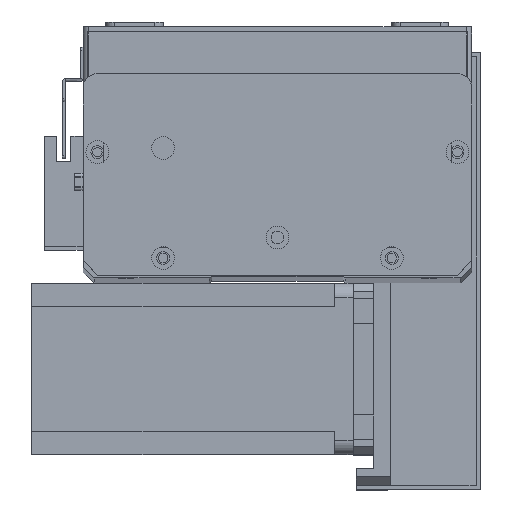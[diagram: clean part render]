
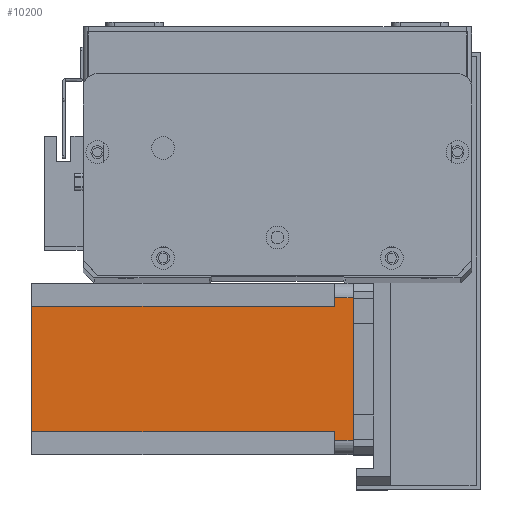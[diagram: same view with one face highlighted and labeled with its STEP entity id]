
A CAD part, top view. The second image highlights one B-rep face of the part: STEP entity #10200.
In plain terms, the highlighted planar face has unit normal (0, 0, 1) as drawn and (0, -1, 0) by its records, which use the part's own axes.
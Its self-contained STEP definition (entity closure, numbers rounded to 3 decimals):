
#743 = VECTOR ( 'NONE', #19287, 1000. ) ;
#881 = DIRECTION ( 'NONE',  ( 1., 0., 0. ) ) ;
#1166 = CARTESIAN_POINT ( 'NONE',  ( 52., 0., -112.5 ) ) ;
#2771 = CARTESIAN_POINT ( 'NONE',  ( 55., 0., -112.5 ) ) ;
#2995 = LINE ( 'NONE', #18598, #8329 ) ;
#3150 = VECTOR ( 'NONE', #25410, 1000. ) ;
#4095 = VERTEX_POINT ( 'NONE', #10536 ) ;
#4291 = CARTESIAN_POINT ( 'NONE',  ( 5., 0., -112.5 ) ) ;
#4476 = VERTEX_POINT ( 'NONE', #12394 ) ;
#4804 = CARTESIAN_POINT ( 'NONE',  ( 52., 0., -112.5 ) ) ;
#4951 = CARTESIAN_POINT ( 'NONE',  ( 0., 0., -112.5 ) ) ;
#5153 = ORIENTED_EDGE ( 'NONE', *, *, #24246, .F. ) ;
#5702 = VERTEX_POINT ( 'NONE', #28432 ) ;
#6292 = VECTOR ( 'NONE', #23249, 1000. ) ;
#6679 = ORIENTED_EDGE ( 'NONE', *, *, #21431, .T. ) ;
#7613 = CARTESIAN_POINT ( 'NONE',  ( 0., 0., 0. ) ) ;
#7715 = VECTOR ( 'NONE', #17931, 1000. ) ;
#8329 = VECTOR ( 'NONE', #20849, 1000. ) ;
#9540 = CARTESIAN_POINT ( 'NONE',  ( 55., 0., -6.5 ) ) ;
#9580 = DIRECTION ( 'NONE',  ( 1., 0., 0. ) ) ;
#9732 = VECTOR ( 'NONE', #881, 1000. ) ;
#10200 = ADVANCED_FACE ( 'NONE', ( #27915 ), #19755, .T. ) ;
#10536 = CARTESIAN_POINT ( 'NONE',  ( 52., 0., -6.5 ) ) ;
#10826 = LINE ( 'NONE', #13524, #22111 ) ;
#11150 = VERTEX_POINT ( 'NONE', #13206 ) ;
#11461 = ORIENTED_EDGE ( 'NONE', *, *, #21830, .T. ) ;
#12394 = CARTESIAN_POINT ( 'NONE',  ( 8., 0., -112.5 ) ) ;
#12725 = ORIENTED_EDGE ( 'NONE', *, *, #24914, .T. ) ;
#13206 = CARTESIAN_POINT ( 'NONE',  ( 55., 0., 0. ) ) ;
#13363 = ORIENTED_EDGE ( 'NONE', *, *, #26808, .F. ) ;
#13445 = VERTEX_POINT ( 'NONE', #9540 ) ;
#13524 = CARTESIAN_POINT ( 'NONE',  ( 8., 0., -112.5 ) ) ;
#13585 = LINE ( 'NONE', #1166, #743 ) ;
#15743 = LINE ( 'NONE', #7613, #9732 ) ;
#15953 = VERTEX_POINT ( 'NONE', #26048 ) ;
#16459 = CARTESIAN_POINT ( 'NONE',  ( 5., 0., 0. ) ) ;
#17931 = DIRECTION ( 'NONE',  ( 0., 0., -1. ) ) ;
#18036 = DIRECTION ( 'NONE',  ( 0., -1., 0. ) ) ;
#18123 = DIRECTION ( 'NONE',  ( 0., 0., -1. ) ) ;
#18598 = CARTESIAN_POINT ( 'NONE',  ( 8., 0., -6.5 ) ) ;
#18717 = EDGE_LOOP ( 'NONE', ( #26643, #6679, #19942, #11461, #26688, #5153, #12725, #13363 ) ) ;
#19287 = DIRECTION ( 'NONE',  ( 0., 0., -1. ) ) ;
#19755 = PLANE ( 'NONE',  #20441 ) ;
#19942 = ORIENTED_EDGE ( 'NONE', *, *, #25650, .F. ) ;
#20082 = CARTESIAN_POINT ( 'NONE',  ( 0., 0., -112.5 ) ) ;
#20441 = AXIS2_PLACEMENT_3D ( 'NONE', #20082, #18036, #18123 ) ;
#20676 = LINE ( 'NONE', #4951, #25971 ) ;
#20841 = EDGE_CURVE ( 'NONE', #4095, #13445, #21238, .T. ) ;
#20849 = DIRECTION ( 'NONE',  ( -1., 0., 0. ) ) ;
#21178 = LINE ( 'NONE', #4291, #7715 ) ;
#21238 = LINE ( 'NONE', #23168, #3150 ) ;
#21431 = EDGE_CURVE ( 'NONE', #13445, #11150, #24344, .T. ) ;
#21830 = EDGE_CURVE ( 'NONE', #28673, #5702, #21178, .T. ) ;
#22111 = VECTOR ( 'NONE', #24775, 1000. ) ;
#23168 = CARTESIAN_POINT ( 'NONE',  ( 52., 0., -6.5 ) ) ;
#23249 = DIRECTION ( 'NONE',  ( 0., 0., 1. ) ) ;
#23640 = EDGE_CURVE ( 'NONE', #15953, #5702, #2995, .T. ) ;
#24246 = EDGE_CURVE ( 'NONE', #4476, #15953, #10826, .T. ) ;
#24344 = LINE ( 'NONE', #2771, #6292 ) ;
#24775 = DIRECTION ( 'NONE',  ( 0., 0., 1. ) ) ;
#24914 = EDGE_CURVE ( 'NONE', #4476, #28600, #20676, .T. ) ;
#25410 = DIRECTION ( 'NONE',  ( 1., 0., 0. ) ) ;
#25650 = EDGE_CURVE ( 'NONE', #28673, #11150, #15743, .T. ) ;
#25971 = VECTOR ( 'NONE', #9580, 1000. ) ;
#26048 = CARTESIAN_POINT ( 'NONE',  ( 8., 0., -6.5 ) ) ;
#26643 = ORIENTED_EDGE ( 'NONE', *, *, #20841, .T. ) ;
#26688 = ORIENTED_EDGE ( 'NONE', *, *, #23640, .F. ) ;
#26808 = EDGE_CURVE ( 'NONE', #4095, #28600, #13585, .T. ) ;
#27915 = FACE_OUTER_BOUND ( 'NONE', #18717, .T. ) ;
#28432 = CARTESIAN_POINT ( 'NONE',  ( 5., 0., -6.5 ) ) ;
#28600 = VERTEX_POINT ( 'NONE', #4804 ) ;
#28673 = VERTEX_POINT ( 'NONE', #16459 ) ;
